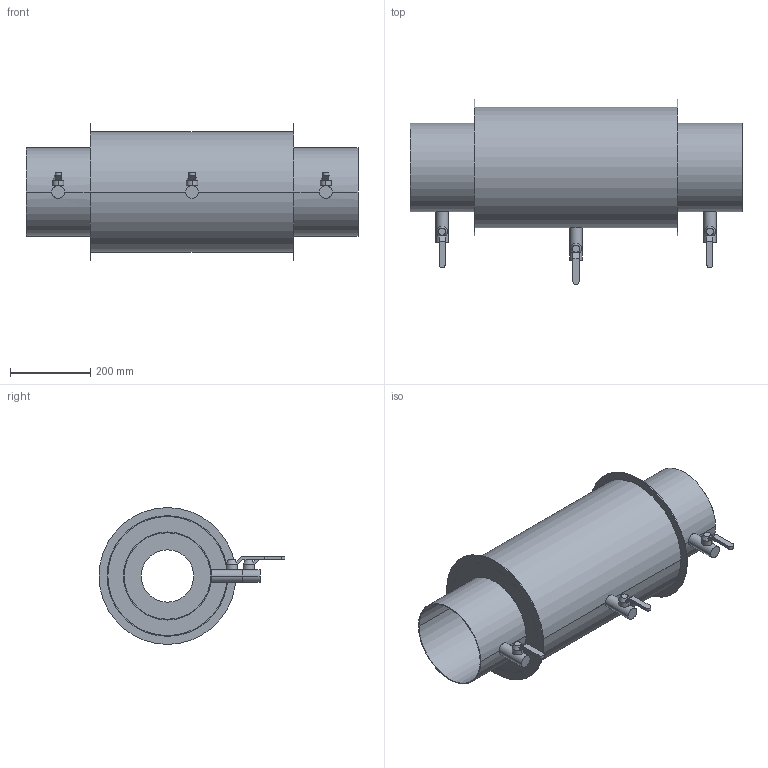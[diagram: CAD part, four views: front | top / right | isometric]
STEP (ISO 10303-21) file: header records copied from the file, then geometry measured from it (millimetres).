
FILE_DESCRIPTION((''),'2;1');
FILE_NAME('52244826','2024-05-17T08:36:29',('ged'),('HUBER SE'),'CREO PARAMETRIC BY PTC INC, 2022162','CREO PARAMETRIC BY PTC INC, 2022162','');
FILE_SCHEMA(('AUTOMOTIVE_DESIGN { 1 0 10303 214 1 1 1 1 }'));
Length unit declared in the file: millimetre
Products named in the file (1): 52244826
Bounding box: 825 x 462 x 340 mm (x, y, z)
Volume: 1937167.7 mm3; surface area: 1732859.3 mm2
Topology: 8 solids, 8 shells, 85 faces, 173 edges, 112 vertices
Faces by surface type: plane 44, cylinder 35, cone 6
Entity records: 2954 total; most frequent: CARTESIAN_POINT 570, DIRECTION 411, ORIENTED_EDGE 346, EDGE_CURVE 173, AXIS2_PLACEMENT_3D 157, VERTEX_POINT 112, COLOUR_RGB 106, VECTOR 97
